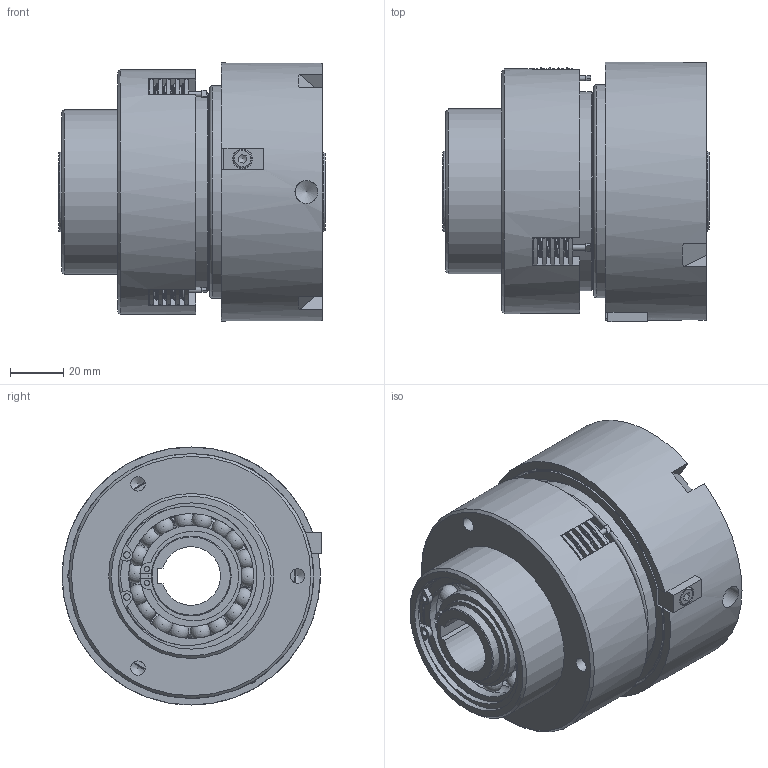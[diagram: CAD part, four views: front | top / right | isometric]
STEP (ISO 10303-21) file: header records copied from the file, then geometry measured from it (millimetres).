
FILE_DESCRIPTION(/* description */ (''),/* implementation_level */ '2;1');
FILE_NAME(/* name */ 'X:\INVENTOR\DISEGNI\03_Friz_Oleod_Pneum_Cil_Stat\03_06 LPR\03_06_002_01 LPR02\03_06_002_01 LPR02@STEP.stp',/* time_stamp */ '2019-10-22T11:38:42+02:00',/* author */ ('stefano'),/* organization */ (''),/* preprocessor_version */ 'ST-DEVELOPER v17',/* originating_system */ 'Autodesk Inventor 2018',/* authorisation */ '');
FILE_SCHEMA (('AUTOMOTIVE_DESIGN { 1 0 10303 214 3 1 1 }'));
Products named in the file (1): 03_06_002_01 LPR02_Substitute_1
Bounding box: 100 x 97.6 x 97 mm (x, y, z)
Volume: 416884.4 mm3; surface area: 182050.3 mm2
Topology: 7 solids, 8 shells, 1202 faces, 3687 edges, 2475 vertices
Faces by surface type: plane 633, bspline 240, cylinder 168, torus 90, sphere 38, cone 33
Full cylindrical faces by diameter (mm): 2 x9, 2.5 x2, 2.75 x15, 5 x4, 5.459 x3, 7 x1, 7.5 x1, 8.566 x1, 28.6 x3, 30 x7, 38 x6, 40 x1, 46.5 x1, 47 x7, 48 x6, 50 x1, 55 x5, 56.5 x1, 58 x1, 59.6 x2, 60 x1, 62 x2, 65 x1, 70 x1, 70.4 x2, 75 x1, 78.2 x4, 80 x1, 85 x1, 92 x1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
Entity records: 53526 total; most frequent: CARTESIAN_POINT 20936, ORIENTED_EDGE 7206, DIRECTION 5549, EDGE_CURVE 3603, VERTEX_POINT 2475, AXIS2_PLACEMENT_3D 1875, LINE 1799, VECTOR 1799
